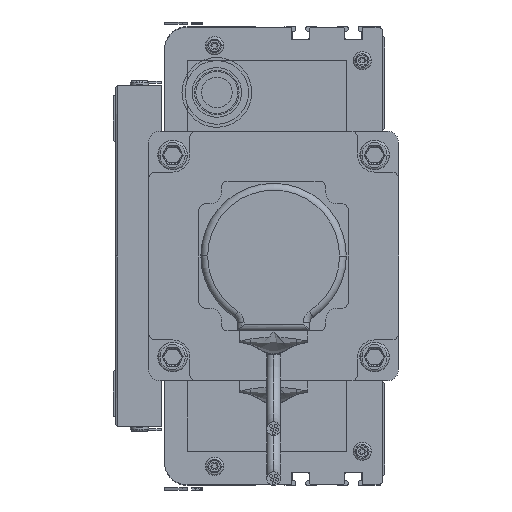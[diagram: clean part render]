
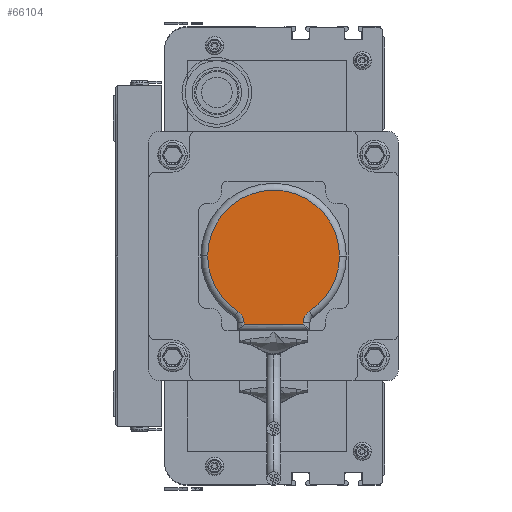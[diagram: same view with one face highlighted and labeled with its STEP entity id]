
A CAD part, left-side view. The second image highlights one B-rep face of the part: STEP entity #66104.
In plain terms, the highlighted planar face has unit normal (-1, 0, 0) as drawn and (0, 0, 1) by its records, which use the part's own axes.
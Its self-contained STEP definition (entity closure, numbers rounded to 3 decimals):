
#66088 = EDGE_CURVE ( 'NONE', #66090, #66276, #124775, .T. ) ;
#66090 = VERTEX_POINT ( 'NONE', #124781 ) ;
#66104 = ADVANCED_FACE ( 'NONE', ( #124882 ), #124889, .T. ) ;
#66190 = VERTEX_POINT ( 'NONE', #124972 ) ;
#66198 = EDGE_CURVE ( 'NONE', #66276, #66190, #124950, .T. ) ;
#66216 = EDGE_LOOP ( 'NONE', ( #66434, #66254, #66256, #66253, #66319, #66318, #66381, #66317 ) ) ;
#66236 = EDGE_CURVE ( 'NONE', #66090, #66322, #125013, .T. ) ;
#66253 = ORIENTED_EDGE ( 'NONE', *, *, #66314, .T. ) ;
#66254 = ORIENTED_EDGE ( 'NONE', *, *, #66088, .T. ) ;
#66256 = ORIENTED_EDGE ( 'NONE', *, *, #66198, .T. ) ;
#66257 = VERTEX_POINT ( 'NONE', #125031 ) ;
#66276 = VERTEX_POINT ( 'NONE', #125153 ) ;
#66314 = EDGE_CURVE ( 'NONE', #66190, #66446, #125171, .T. ) ;
#66316 = EDGE_CURVE ( 'NONE', #66408, #66446, #125173, .T. ) ;
#66317 = ORIENTED_EDGE ( 'NONE', *, *, #66407, .T. ) ;
#66318 = ORIENTED_EDGE ( 'NONE', *, *, #66403, .T. ) ;
#66319 = ORIENTED_EDGE ( 'NONE', *, *, #66316, .F. ) ;
#66322 = VERTEX_POINT ( 'NONE', #125160 ) ;
#66381 = ORIENTED_EDGE ( 'NONE', *, *, #66449, .T. ) ;
#66403 = EDGE_CURVE ( 'NONE', #66408, #66257, #125267, .T. ) ;
#66407 = EDGE_CURVE ( 'NONE', #66453, #66322, #125256, .T. ) ;
#66408 = VERTEX_POINT ( 'NONE', #125266 ) ;
#66434 = ORIENTED_EDGE ( 'NONE', *, *, #66236, .F. ) ;
#66446 = VERTEX_POINT ( 'NONE', #125293 ) ;
#66449 = EDGE_CURVE ( 'NONE', #66257, #66453, #125342, .T. ) ;
#66453 = VERTEX_POINT ( 'NONE', #125337 ) ;
#124775 = CIRCLE ( 'NONE', #124777, 29. ) ;
#124777 = AXIS2_PLACEMENT_3D ( 'NONE', #124846, #124845, #124844 ) ;
#124781 = CARTESIAN_POINT ( 'NONE',  ( 17.257, 57.355, 25. ) ) ;
#124844 = DIRECTION ( 'NONE',  ( 1., 0., 0. ) ) ;
#124845 = DIRECTION ( 'NONE',  ( 0., 0., 1. ) ) ;
#124846 = CARTESIAN_POINT ( 'NONE',  ( 33., 33., 25. ) ) ;
#124874 = DIRECTION ( 'NONE',  ( 1., 0., 0. ) ) ;
#124875 = DIRECTION ( 'NONE',  ( 0., 0., 1. ) ) ;
#124876 = CARTESIAN_POINT ( 'NONE',  ( 33., 33., 25. ) ) ;
#124877 = AXIS2_PLACEMENT_3D ( 'NONE', #124876, #124875, #124874 ) ;
#124882 = FACE_OUTER_BOUND ( 'NONE', #66216, .T. ) ;
#124889 = PLANE ( 'NONE',  #124877 ) ;
#124950 = CIRCLE ( 'NONE', #124980, 29. ) ;
#124972 = CARTESIAN_POINT ( 'NONE',  ( 62., 33., 25. ) ) ;
#124980 = AXIS2_PLACEMENT_3D ( 'NONE', #125019, #125018, #125017 ) ;
#124991 = AXIS2_PLACEMENT_3D ( 'NONE', #125048, #125047, #125046 ) ;
#125013 = CIRCLE ( 'NONE', #124991, 6. ) ;
#125017 = DIRECTION ( 'NONE',  ( 1., 0., 0. ) ) ;
#125018 = DIRECTION ( 'NONE',  ( 0., 0., 1. ) ) ;
#125019 = CARTESIAN_POINT ( 'NONE',  ( 33., 33., 25. ) ) ;
#125031 = CARTESIAN_POINT ( 'NONE',  ( 46., 63., 25. ) ) ;
#125046 = DIRECTION ( 'NONE',  ( 1., 0., 0. ) ) ;
#125047 = DIRECTION ( 'NONE',  ( 0., 0., 1. ) ) ;
#125048 = CARTESIAN_POINT ( 'NONE',  ( 14., 62.394, 25. ) ) ;
#125153 = CARTESIAN_POINT ( 'NONE',  ( 4., 33., 25. ) ) ;
#125160 = CARTESIAN_POINT ( 'NONE',  ( 20., 62.394, 25. ) ) ;
#125161 = DIRECTION ( 'NONE',  ( 1., 0., 0. ) ) ;
#125164 = DIRECTION ( 'NONE',  ( 1., 0., 0. ) ) ;
#125165 = AXIS2_PLACEMENT_3D ( 'NONE', #125170, #125177, #125164 ) ;
#125167 = CARTESIAN_POINT ( 'NONE',  ( 52., 62.394, 25. ) ) ;
#125169 = DIRECTION ( 'NONE',  ( 0., 0., 1. ) ) ;
#125170 = CARTESIAN_POINT ( 'NONE',  ( 33., 33., 25. ) ) ;
#125171 = CIRCLE ( 'NONE', #125165, 29. ) ;
#125173 = CIRCLE ( 'NONE', #125174, 6. ) ;
#125174 = AXIS2_PLACEMENT_3D ( 'NONE', #125167, #125169, #125161 ) ;
#125177 = DIRECTION ( 'NONE',  ( 0., 0., 1. ) ) ;
#125253 = DIRECTION ( 'NONE',  ( 0., -1., 0. ) ) ;
#125254 = VECTOR ( 'NONE', #125253, 1000. ) ;
#125255 = CARTESIAN_POINT ( 'NONE',  ( 20., 33., 25. ) ) ;
#125256 = LINE ( 'NONE', #125255, #125254 ) ;
#125263 = DIRECTION ( 'NONE',  ( 0., 1., 0. ) ) ;
#125264 = VECTOR ( 'NONE', #125263, 1000. ) ;
#125265 = CARTESIAN_POINT ( 'NONE',  ( 46., 33., 25. ) ) ;
#125266 = CARTESIAN_POINT ( 'NONE',  ( 46., 62.394, 25. ) ) ;
#125267 = LINE ( 'NONE', #125265, #125264 ) ;
#125293 = CARTESIAN_POINT ( 'NONE',  ( 48.743, 57.355, 25. ) ) ;
#125335 = DIRECTION ( 'NONE',  ( -1., 0., 0. ) ) ;
#125336 = VECTOR ( 'NONE', #125335, 1000. ) ;
#125337 = CARTESIAN_POINT ( 'NONE',  ( 20., 63., 25. ) ) ;
#125342 = LINE ( 'NONE', #125343, #125336 ) ;
#125343 = CARTESIAN_POINT ( 'NONE',  ( 17.5, 63., 25. ) ) ;
